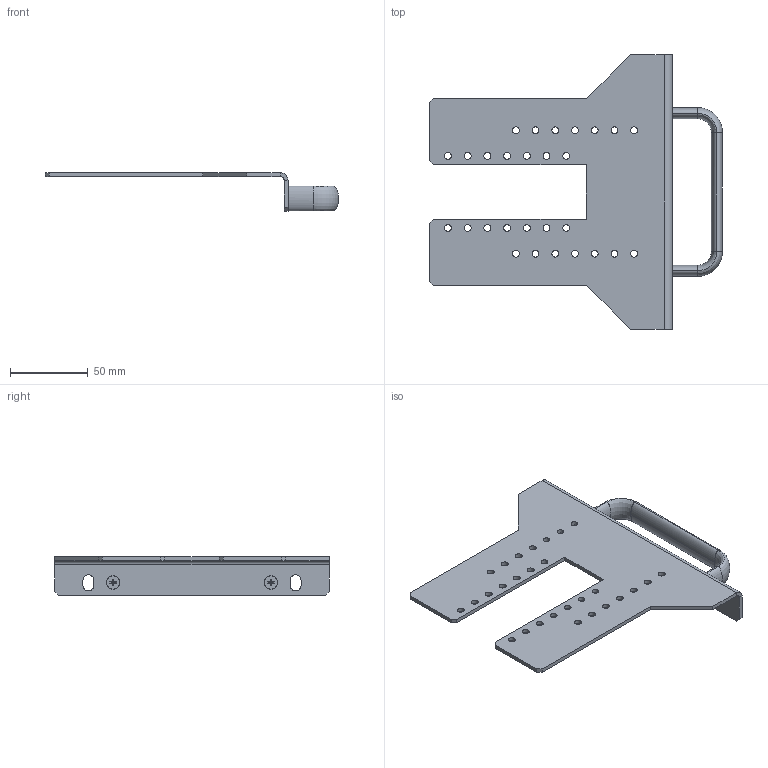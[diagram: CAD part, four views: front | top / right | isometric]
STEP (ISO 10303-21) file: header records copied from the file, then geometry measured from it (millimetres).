
FILE_DESCRIPTION((''),'2;1');
FILE_NAME('ASSY_RACK_MOUNT_LEFT_PXIE-1078_ASM','2011-11-15T',('talbott'),(''),'PRO/ENGINEER BY PARAMETRIC TECHNOLOGY CORPORATION, 2010230','PRO/ENGINEER BY PARAMETRIC TECHNOLOGY CORPORATION, 2010230','');
FILE_SCHEMA(('CONFIG_CONTROL_DESIGN'));
Length unit declared in the file: inch
Products named in the file (4): BRACKET_LEFT_RACK_MNT_PXIE-1078; HANDLE_OVAL_5-8X9-32X1-28X4; FLHUC_PHIL_832X0375_SS; ASSY_RACK_MOUNT_LEFT_PXIE-1078_ASM
Assembly tree (4 placements, depth 2):
  ASSY_RACK_MOUNT_LEFT_PXIE-1078_ASM
    BRACKET_LEFT_RACK_MNT_PXIE-1078
    HANDLE_OVAL_5-8X9-32X1-28X4
    FLHUC_PHIL_832X0375_SS  x2
Bounding box: 188.73 x 177.04 x 24.94 mm (x, y, z)
Volume: 65689.3 mm3; surface area: 51017.4 mm2
Topology: 4 solids, 4 shells, 177 faces, 471 edges, 268 vertices
Faces by surface type: cylinder 74, plane 44, bspline 40, cone 8, extrusion 7, revolution 4
Entity records: 5390 total; most frequent: CARTESIAN_POINT 1507, DIRECTION 772, ORIENTED_EDGE 758, EDGE_CURVE 379, AXIS2_PLACEMENT_3D 290, VERTEX_POINT 258, EDGE_LOOP 218, VECTOR 188
